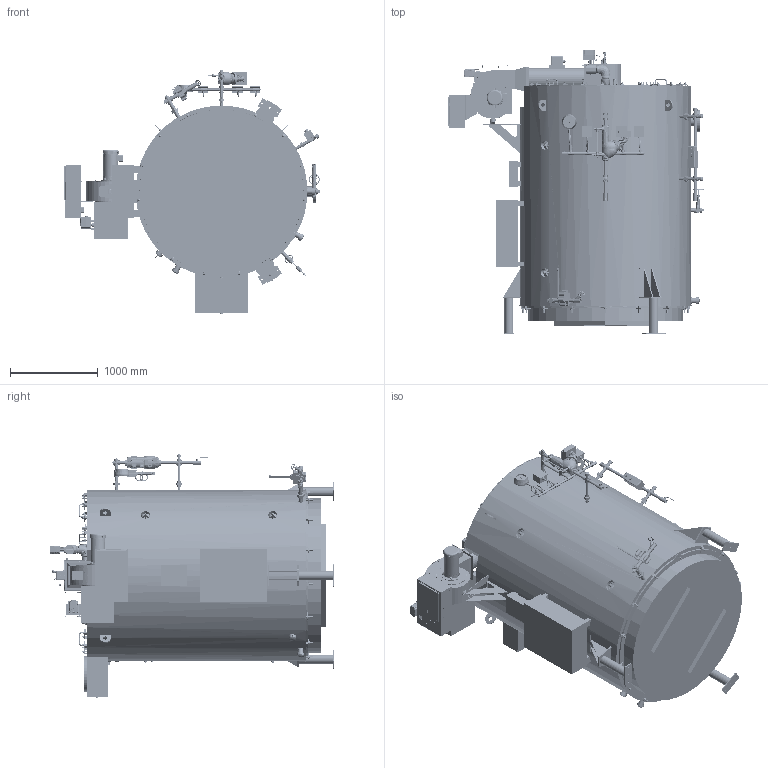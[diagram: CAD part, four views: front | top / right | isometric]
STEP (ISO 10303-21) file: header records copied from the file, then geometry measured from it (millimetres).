
FILE_DESCRIPTION(/* description */ (''),/* implementation_level */ '2;1');
FILE_NAME(/* name */ 'N:\Brandon Sherraden\Marketing\UTE\DVFT-150HP-2021.stp',/* time_stamp */ '2021-05-10T08:29:16-05:00',/* author */ ('bsherraden'),/* organization */ (''),/* preprocessor_version */ 'ST-DEVELOPER v18.1',/* originating_system */ 'Autodesk Inventor 2022',/* authorisation */ '');
FILE_SCHEMA (('AUTOMOTIVE_DESIGN { 1 0 10303 214 3 1 1 }'));
Products named in the file (310): DVFT-150HP ASSEMBLY; SHELL; JACKET; FURNACE ASSEMBLY; FURNACE SHELL; UPPER TUBESHEET; LOWER TUBESHEET; TURNAROUND SHELL; MUD RING; TUBES; LOADING EYES; HANDHOLE RING; HANDHOLE PLATE; HANDHOLE CRAB; ANSI_ASME B36.19M Pipe with Threaded Ends 2 - Schedule 80S - 6; ASME B16.11 Coupling Threaded - Class 3000 1 x 1; ASME B16.11 Coupling Threaded - Class 3000 1 1_4 x 1 1_4; ASME B16.11 Coupling Threaded - Class 3000 2 x 2; ASME B16.5 Flange Threaded - Class 300 4; ANSI_ASME B36.19M Pipe with Threaded Ends 4 - Schedule 80S - 8; BOTTOM LID RING; BOTTOM LID; LEG ASSEMBLY; BOTTOM PLATE; GUSSET PLATE; TOP PLATE; TUBE; BASE PLATE; LEG ATTACH PLATE; TOP SMOKEBOX ASSEMBLY; PLATE; DOORS; WRAPPER SHEET; Handle; Lug Plate; BURNER MOUNT; SMOKEBOX RING; ASTM F436 - 1_2(1); AS 2465 - 1_2  UNC(1); STACK ASSEMBLY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
Assembly tree (741 placements, depth 8):
  DVFT-150HP ASSEMBLY
    SHELL
    JACKET
    FURNACE ASSEMBLY
      FURNACE SHELL
      UPPER TUBESHEET
      LOWER TUBESHEET
      TURNAROUND SHELL
      MUD RING
    TUBES
    LOADING EYES
    HANDHOLE RING  x4
    HANDHOLE PLATE  x4
    HANDHOLE CRAB  x4
    ANSI_ASME B36.19M Pipe with Threaded Ends 2 - Schedule 80S - 6
    ASME B16.11 Coupling Threaded - Class 3000 1 x 1  x5
    ASME B16.11 Coupling Threaded - Class 3000 1 1_4 x 1 1_4  x2
    ASME B16.11 Coupling Threaded - Class 3000 2 x 2  x4
    ASME B16.5 Flange Threaded - Class 300 4
    ANSI_ASME B36.19M Pipe with Threaded Ends 4 - Schedule 80S - 8
    BOTTOM LID RING
    BOTTOM LID
    LEG ASSEMBLY
      BOTTOM PLATE
      GUSSET PLATE  x6
      TOP PLATE
      TUBE  x3
      BASE PLATE  x3
      LEG ATTACH PLATE
    TOP SMOKEBOX ASSEMBLY
      PLATE
      DOORS
      WRAPPER SHEET
      Handle  x6
      Lug Bent  x23
      Lug Plate  x4
      AS 2465 - 1_2  UNC(1)  x46
      ASTM F436 - 1_2(1)  x19
    BURNER MOUNT
    SMOKEBOX RING
    ASTM F436 - 1_2(1)  x12
    AS 2465 - 1_2  UNC(1)  x12
    STACK ASSEMBLY
      SIDE PLATE
      FRONT PLATE
      BEVEL PLATE  x2
      ASME B16.11 Coupling - Class 3000 1_2
    ANSI_ASME B36.19M Pipe with Threaded Ends 1 - Schedule 80S - 3  x8
    1 UNION  x4
    ASME B16.3 Reducing Tee - Class 300 1 x 1 x 3_4
    ASME B16.11 Cross Threaded - Class 2000 1  x4
    ANSI_ASME B36.19M Pipe with Threaded Ends 1 - Schedule 80S - 8  x2
    ANSI_ASME B36.19M Pipe with Threaded Ends 1 - Schedule 80S - 6  x3
    1 INCH BALL VALVE  x2
    MM 157s
      241160
      239680
      223200  x8
      247043
      240400
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Bounding box: 2906.89 x 3234.98 x 2769.96 mm (x, y, z)
Volume: 2078050228.8 mm3; surface area: 167065442.6 mm2
Topology: 831 solids, 839 shells, 24639 faces, 62497 edges, 40231 vertices
Faces by surface type: plane 9994, cylinder 6708, cone 4278, bspline 2892, torus 472, sphere 295
Full cylindrical faces by diameter (mm): 2.019 x1, 2.286 x4, 2.388 x6, 2.438 x28, 2.474 x188, 2.489 x4, 2.565 x2, 2.705 x2, 2.718 x2, 3.175 x32, 3.251 x5, 3.454 x45, 3.505 x194, 3.556 x2, 3.734 x25, 3.785 x2, 3.81 x8, 4 x40, 4.039 x21, 4.064 x4, 4.166 x8, 4.216 x8, 4.318 x2, 4.369 x9, 4.445 x4, 4.521 x4, 4.572 x2, 4.7 x130, 4.701 x36, 4.75 x4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
Entity records: 984244 total; most frequent: CARTESIAN_POINT 576519, ORIENTED_EDGE 84518, DIRECTION 77378, EDGE_CURVE 42259, AXIS2_PLACEMENT_3D 28915, VERTEX_POINT 27345, EDGE_LOOP 20756, LINE 19548
